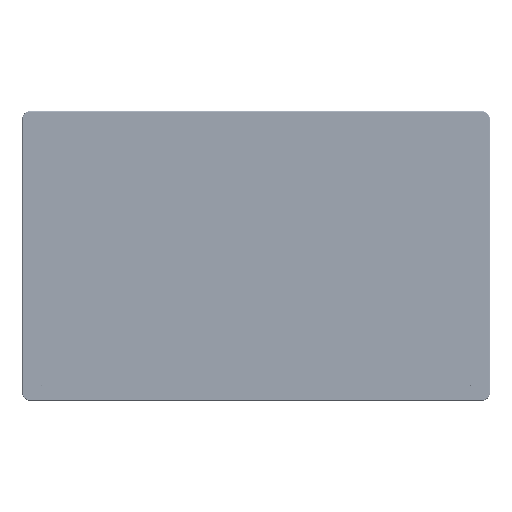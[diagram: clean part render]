
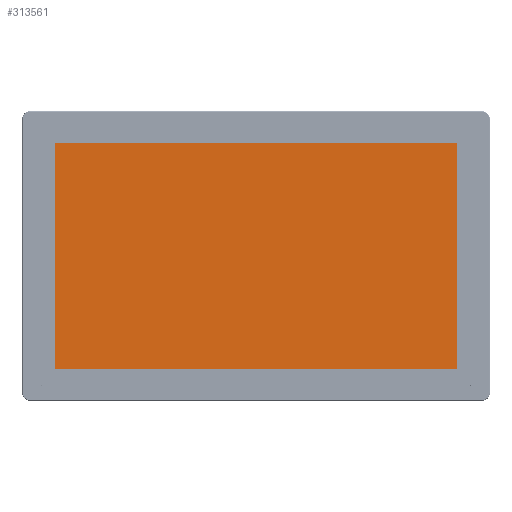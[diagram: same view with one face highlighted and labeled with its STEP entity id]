
A CAD part, top view. The second image highlights one B-rep face of the part: STEP entity #313561.
In plain terms, the highlighted planar face has unit normal (0, 0, 1).
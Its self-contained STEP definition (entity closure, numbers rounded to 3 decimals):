
#4474 = EDGE_CURVE ( 'NONE', #95776, #48544, #553843, .T. ) ;
#9144 = VECTOR ( 'NONE', #541092, 1000. ) ;
#15979 = LINE ( 'NONE', #392610, #604435 ) ;
#30988 = CARTESIAN_POINT ( 'NONE',  ( 179.954, 125.49, 11.5 ) ) ;
#48544 = VERTEX_POINT ( 'NONE', #484739 ) ;
#50286 = FACE_OUTER_BOUND ( 'NONE', #376476, .T. ) ;
#95776 = VERTEX_POINT ( 'NONE', #30988 ) ;
#123410 = EDGE_CURVE ( 'NONE', #404533, #254867, #326058, .T. ) ;
#135025 = PLANE ( 'NONE',  #262649 ) ;
#154136 = ORIENTED_EDGE ( 'NONE', *, *, #123410, .T. ) ;
#200187 = CARTESIAN_POINT ( 'NONE',  ( -52.517, 2.567, 11.5 ) ) ;
#222933 = VECTOR ( 'NONE', #583479, 1000. ) ;
#247470 = DIRECTION ( 'NONE',  ( 0., 0., 1. ) ) ;
#254867 = VERTEX_POINT ( 'NONE', #586767 ) ;
#262649 = AXIS2_PLACEMENT_3D ( 'NONE', #200187, #247470, #494403 ) ;
#266299 = CARTESIAN_POINT ( 'NONE',  ( -297.546, 125.49, 11.5 ) ) ;
#267293 = CARTESIAN_POINT ( 'NONE',  ( -297.546, 125.49, 11.5 ) ) ;
#268887 = LINE ( 'NONE', #266299, #445344 ) ;
#272379 = DIRECTION ( 'NONE',  ( 0., -1., 0. ) ) ;
#309238 = EDGE_CURVE ( 'NONE', #254867, #95776, #15979, .T. ) ;
#313561 = ADVANCED_FACE ( 'NONE', ( #50286 ), #135025, .T. ) ;
#326058 = LINE ( 'NONE', #540134, #222933 ) ;
#335211 = ORIENTED_EDGE ( 'NONE', *, *, #309238, .T. ) ;
#356426 = EDGE_CURVE ( 'NONE', #48544, #404533, #268887, .T. ) ;
#374166 = ORIENTED_EDGE ( 'NONE', *, *, #4474, .T. ) ;
#376476 = EDGE_LOOP ( 'NONE', ( #492311, #154136, #335211, #374166 ) ) ;
#392610 = CARTESIAN_POINT ( 'NONE',  ( 179.954, 125.49, 11.5 ) ) ;
#404533 = VERTEX_POINT ( 'NONE', #532825 ) ;
#445344 = VECTOR ( 'NONE', #272379, 1000. ) ;
#455960 = DIRECTION ( 'NONE',  ( 0., 1., 0. ) ) ;
#484739 = CARTESIAN_POINT ( 'NONE',  ( -297.546, 125.49, 11.5 ) ) ;
#492311 = ORIENTED_EDGE ( 'NONE', *, *, #356426, .T. ) ;
#494403 = DIRECTION ( 'NONE',  ( 1., 0., 0. ) ) ;
#532825 = CARTESIAN_POINT ( 'NONE',  ( -297.546, -143.51, 11.5 ) ) ;
#540134 = CARTESIAN_POINT ( 'NONE',  ( -297.546, -143.51, 11.5 ) ) ;
#541092 = DIRECTION ( 'NONE',  ( -1., 0., 0. ) ) ;
#553843 = LINE ( 'NONE', #267293, #9144 ) ;
#583479 = DIRECTION ( 'NONE',  ( 1., 0., 0. ) ) ;
#586767 = CARTESIAN_POINT ( 'NONE',  ( 179.954, -143.51, 11.5 ) ) ;
#604435 = VECTOR ( 'NONE', #455960, 1000. ) ;
